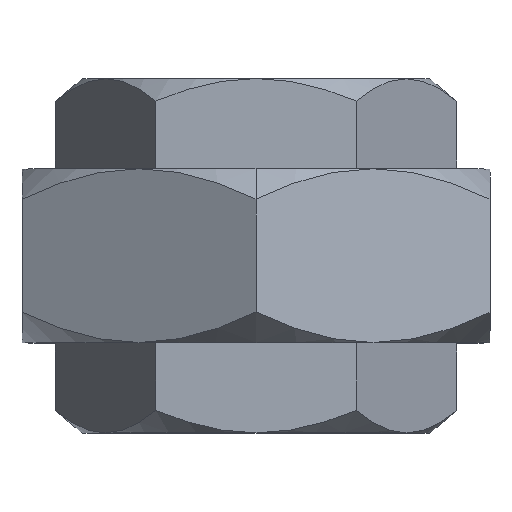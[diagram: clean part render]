
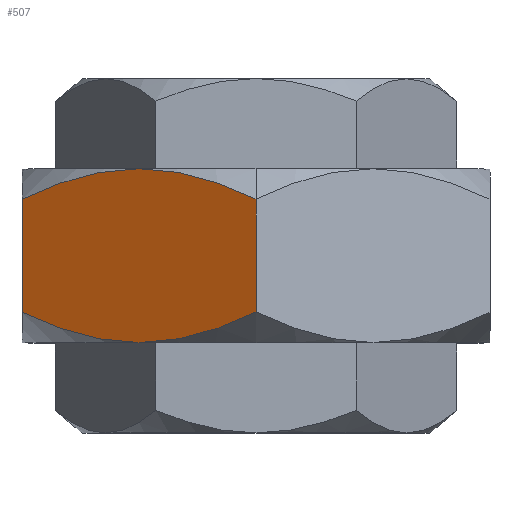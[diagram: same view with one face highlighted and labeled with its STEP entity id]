
A CAD part, top view. The second image highlights one B-rep face of the part: STEP entity #507.
In plain terms, the highlighted planar face has unit normal (-0.5, 0, 0.866).
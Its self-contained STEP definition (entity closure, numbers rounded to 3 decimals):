
#39 = ORIENTED_EDGE ( 'NONE', *, *, #1290, .F. ) ;
#62 = CARTESIAN_POINT ( 'NONE',  ( -11.538, 12.471, 33.753 ) ) ;
#65 = CARTESIAN_POINT ( 'NONE',  ( -14.481, -12.864, 32.054 ) ) ;
#70 = PLANE ( 'NONE',  #1121 ) ;
#100 = CARTESIAN_POINT ( 'NONE',  ( -29.303, -10.859, 23.496 ) ) ;
#109 = VERTEX_POINT ( 'NONE', #2677 ) ;
#133 = ORIENTED_EDGE ( 'NONE', *, *, #818, .T. ) ;
#200 = CARTESIAN_POINT ( 'NONE',  ( 0., -8.457, 40.415 ) ) ;
#202 = LINE ( 'NONE', #2350, #2613 ) ;
#210 = VERTEX_POINT ( 'NONE', #2567 ) ;
#239 = CARTESIAN_POINT ( 'NONE',  ( -25.001, 12.144, 25.98 ) ) ;
#347 = CARTESIAN_POINT ( 'NONE',  ( -14.501, 12.891, 32.042 ) ) ;
#350 = CARTESIAN_POINT ( 'NONE',  ( -13.723, -12.782, 32.492 ) ) ;
#391 = CARTESIAN_POINT ( 'NONE',  ( -27.852, -11.342, 24.334 ) ) ;
#452 = EDGE_CURVE ( 'NONE', #2675, #1251, #202, .T. ) ;
#507 = ADVANCED_FACE ( 'NONE', ( #987 ), #70, .F. ) ;
#532 = CARTESIAN_POINT ( 'NONE',  ( -29.372, 10.944, 23.457 ) ) ;
#572 = CARTESIAN_POINT ( 'NONE',  ( 0., 8.457, 40.415 ) ) ;
#646 = CARTESIAN_POINT ( 'NONE',  ( -15.995, 13., 31.18 ) ) ;
#648 = CARTESIAN_POINT ( 'NONE',  ( -11.475, -12.46, 33.79 ) ) ;
#666 = ORIENTED_EDGE ( 'NONE', *, *, #1133, .F. ) ;
#685 = CARTESIAN_POINT ( 'NONE',  ( -27.124, -11.563, 24.755 ) ) ;
#719 = ORIENTED_EDGE ( 'NONE', *, *, #1081, .F. ) ;
#748 = VERTEX_POINT ( 'NONE', #1386 ) ;
#810 = CARTESIAN_POINT ( 'NONE',  ( -32.21, 9.808, 21.818 ) ) ;
#818 = EDGE_CURVE ( 'NONE', #1632, #109, #2196, .T. ) ;
#851 = CARTESIAN_POINT ( 'NONE',  ( -1.399, 9.135, 39.607 ) ) ;
#921 = CARTESIAN_POINT ( 'NONE',  ( -17.5, 13., 30.311 ) ) ;
#923 = CARTESIAN_POINT ( 'NONE',  ( -9.999, -12.144, 34.642 ) ) ;
#951 = CARTESIAN_POINT ( 'NONE',  ( -24.933, -12.16, 26.02 ) ) ;
#987 = FACE_OUTER_BOUND ( 'NONE', #2082, .T. ) ;
#1081 = EDGE_CURVE ( 'NONE', #1632, #748, #1522, .T. ) ;
#1088 = CARTESIAN_POINT ( 'NONE',  ( -35., 8.457, 20.207 ) ) ;
#1121 = AXIS2_PLACEMENT_3D ( 'NONE', #2492, #2219, #1947 ) ;
#1133 = EDGE_CURVE ( 'NONE', #210, #109, #2320, .T. ) ;
#1135 = CARTESIAN_POINT ( 'NONE',  ( -2.816, 9.76, 38.789 ) ) ;
#1194 = CARTESIAN_POINT ( 'NONE',  ( 0., 8.457, 40.415 ) ) ;
#1196 = CARTESIAN_POINT ( 'NONE',  ( -5.628, -10.944, 37.165 ) ) ;
#1236 = CARTESIAN_POINT ( 'NONE',  ( -23.462, -12.471, 26.869 ) ) ;
#1251 = VERTEX_POINT ( 'NONE', #200 ) ;
#1267 = ORIENTED_EDGE ( 'NONE', *, *, #452, .F. ) ;
#1290 = EDGE_CURVE ( 'NONE', #1251, #210, #2210, .T. ) ;
#1301 = CARTESIAN_POINT ( 'NONE',  ( -17.5, 13., 30.311 ) ) ;
#1386 = CARTESIAN_POINT ( 'NONE',  ( -17.5, 13., 30.311 ) ) ;
#1410 = CARTESIAN_POINT ( 'NONE',  ( -4.972, 10.597, 37.544 ) ) ;
#1477 = CARTESIAN_POINT ( 'NONE',  ( -2.79, -9.808, 38.804 ) ) ;
#1512 = CARTESIAN_POINT ( 'NONE',  ( -20.499, -12.891, 28.58 ) ) ;
#1522 = B_SPLINE_CURVE_WITH_KNOTS ( 'NONE', 3,
 ( #1088, #810, #532, #239, #2659, #2379, #2108, #1843, #1577, #1301 ),
 .UNSPECIFIED., .F., .F.,
 ( 4, 2, 2, 2, 4 ),
 ( 0., 0.01, 0.016, 0.018, 0.021 ),
 .UNSPECIFIED. ) ;
#1577 = CARTESIAN_POINT ( 'NONE',  ( -18.251, 13., 29.877 ) ) ;
#1632 = VERTEX_POINT ( 'NONE', #1868 ) ;
#1675 = DIRECTION ( 'NONE',  ( 0., -1., 0. ) ) ;
#1692 = CARTESIAN_POINT ( 'NONE',  ( -5.697, 10.859, 37.125 ) ) ;
#1729 = CARTESIAN_POINT ( 'NONE',  ( -35., -8.457, 20.207 ) ) ;
#1773 = ORIENTED_EDGE ( 'NONE', *, *, #2681, .F. ) ;
#1786 = CARTESIAN_POINT ( 'NONE',  ( -19.005, -13., 29.442 ) ) ;
#1843 = CARTESIAN_POINT ( 'NONE',  ( -19.005, 12.973, 29.442 ) ) ;
#1868 = CARTESIAN_POINT ( 'NONE',  ( -35., 8.457, 20.207 ) ) ;
#1933 = CARTESIAN_POINT ( 'NONE',  ( -35., 13., 20.207 ) ) ;
#1943 = CARTESIAN_POINT ( 'NONE',  ( -7.148, 11.342, 36.288 ) ) ;
#1945 = CARTESIAN_POINT ( 'NONE',  ( -17.5, -13., 30.311 ) ) ;
#1947 = DIRECTION ( 'NONE',  ( -0.866, 0., -0.5 ) ) ;
#1975 = CARTESIAN_POINT ( 'NONE',  ( -33.601, -9.135, 21.015 ) ) ;
#2008 = CARTESIAN_POINT ( 'NONE',  ( 0., -8.457, 40.415 ) ) ;
#2042 = CARTESIAN_POINT ( 'NONE',  ( -17.5, -13., 30.311 ) ) ;
#2076 = DIRECTION ( 'NONE',  ( 0., -1., 0. ) ) ;
#2082 = EDGE_LOOP ( 'NONE', ( #39, #1267, #1773, #719, #133, #666 ) ) ;
#2108 = CARTESIAN_POINT ( 'NONE',  ( -20.519, 12.864, 28.568 ) ) ;
#2196 = LINE ( 'NONE', #1933, #2395 ) ;
#2210 = B_SPLINE_CURVE_WITH_KNOTS ( 'NONE', 3,
 ( #2008, #1477, #1196, #923, #648, #350, #65, #2489, #2215, #1945 ),
 .UNSPECIFIED., .F., .F.,
 ( 4, 2, 2, 2, 4 ),
 ( 0., 0.01, 0.016, 0.018, 0.021 ),
 .UNSPECIFIED. ) ;
#2212 = CARTESIAN_POINT ( 'NONE',  ( -7.876, 11.563, 35.867 ) ) ;
#2215 = CARTESIAN_POINT ( 'NONE',  ( -16.749, -13., 30.745 ) ) ;
#2219 = DIRECTION ( 'NONE',  ( 0.5, 0., -0.866 ) ) ;
#2252 = CARTESIAN_POINT ( 'NONE',  ( -32.184, -9.76, 21.833 ) ) ;
#2320 = B_SPLINE_CURVE_WITH_KNOTS ( 'NONE', 3,
 ( #2042, #1786, #1512, #1236, #951, #685, #391, #100, #2528, #2252, #1975, #1729 ),
 .UNSPECIFIED., .F., .F.,
 ( 4, 2, 2, 2, 2, 4 ),
 ( 0.021, 0.026, 0.031, 0.034, 0.036, 0.042 ),
 .UNSPECIFIED. ) ;
#2350 = CARTESIAN_POINT ( 'NONE',  ( 0., 13., 40.415 ) ) ;
#2379 = CARTESIAN_POINT ( 'NONE',  ( -21.277, 12.782, 28.13 ) ) ;
#2395 = VECTOR ( 'NONE', #1675, 1000. ) ;
#2486 = CARTESIAN_POINT ( 'NONE',  ( -10.067, 12.16, 34.602 ) ) ;
#2489 = CARTESIAN_POINT ( 'NONE',  ( -15.995, -12.973, 31.18 ) ) ;
#2492 = CARTESIAN_POINT ( 'NONE',  ( -35., 13., 20.207 ) ) ;
#2528 = CARTESIAN_POINT ( 'NONE',  ( -30.028, -10.597, 23.078 ) ) ;
#2567 = CARTESIAN_POINT ( 'NONE',  ( -17.5, -13., 30.311 ) ) ;
#2613 = VECTOR ( 'NONE', #2076, 1000. ) ;
#2659 = CARTESIAN_POINT ( 'NONE',  ( -23.525, 12.46, 26.832 ) ) ;
#2660 = B_SPLINE_CURVE_WITH_KNOTS ( 'NONE', 3,
 ( #921, #646, #347, #62, #2486, #2212, #1943, #1692, #1410, #1135, #851, #572 ),
 .UNSPECIFIED., .F., .F.,
 ( 4, 2, 2, 2, 2, 4 ),
 ( 0.021, 0.026, 0.031, 0.034, 0.036, 0.042 ),
 .UNSPECIFIED. ) ;
#2675 = VERTEX_POINT ( 'NONE', #1194 ) ;
#2677 = CARTESIAN_POINT ( 'NONE',  ( -35., -8.457, 20.207 ) ) ;
#2681 = EDGE_CURVE ( 'NONE', #748, #2675, #2660, .T. ) ;
